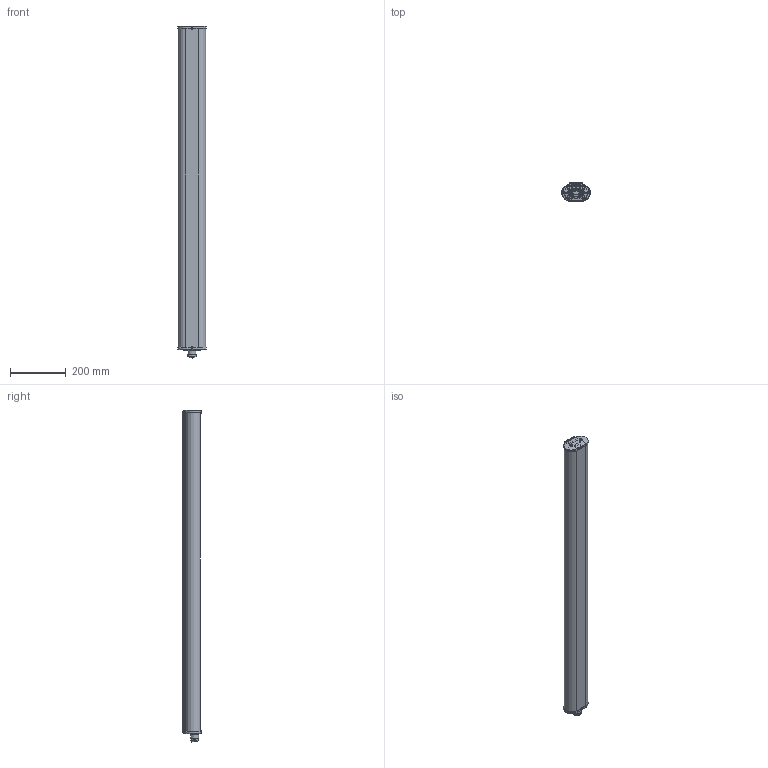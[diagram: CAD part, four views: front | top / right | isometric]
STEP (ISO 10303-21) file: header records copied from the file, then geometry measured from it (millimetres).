
FILE_DESCRIPTION(/* description */ (''),/* implementation_level */ '2;1');
FILE_NAME(/* name */ 'Z:\050-TECNICO\021-IDEALLPROGET 2014\01-PROGETTI\stp\INNOVA-1200-PROVA_Shrinkwrap_2.stp',/* time_stamp */ '2017-02-21T08:57:02+01:00',/* author */ ('Administrator'),/* organization */ ('Ideallux S.r.l.'),/* preprocessor_version */ 'ST-DEVELOPER v15.6',/* originating_system */ 'Autodesk Inventor 2015',/* authorisation */ '');
FILE_SCHEMA (('CONFIG_CONTROL_DESIGN'));
Products named in the file (1): INNOVA-1200-PROVA_Shrinkwrap_2
Bounding box: 103.39 x 65 x 1192.5 mm (x, y, z)
Volume: 747949.2 mm3; surface area: 720555.1 mm2
Topology: 1 solids, 1 shells, 2261 faces, 6214 edges, 4015 vertices
Faces by surface type: plane 927, bspline 722, cylinder 415, cone 106, torus 83, sphere 8
Full cylindrical faces by diameter (mm): 1.28 x2, 1.8 x2, 2.2 x3, 2.562 x2, 3 x4, 3.941 x1, 5.5 x4, 18 x1, 18.5 x2, 20.7 x2, 25.991 x1, 28.4 x3, 28.7 x1, 29.7 x1, 29.9 x1
Entity records: 121137 total; most frequent: CARTESIAN_POINT 67612, ORIENTED_EDGE 12290, DIRECTION 9198, EDGE_CURVE 6145, VERTEX_POINT 3992, LINE 3110, VECTOR 3110, AXIS2_PLACEMENT_3D 3044
